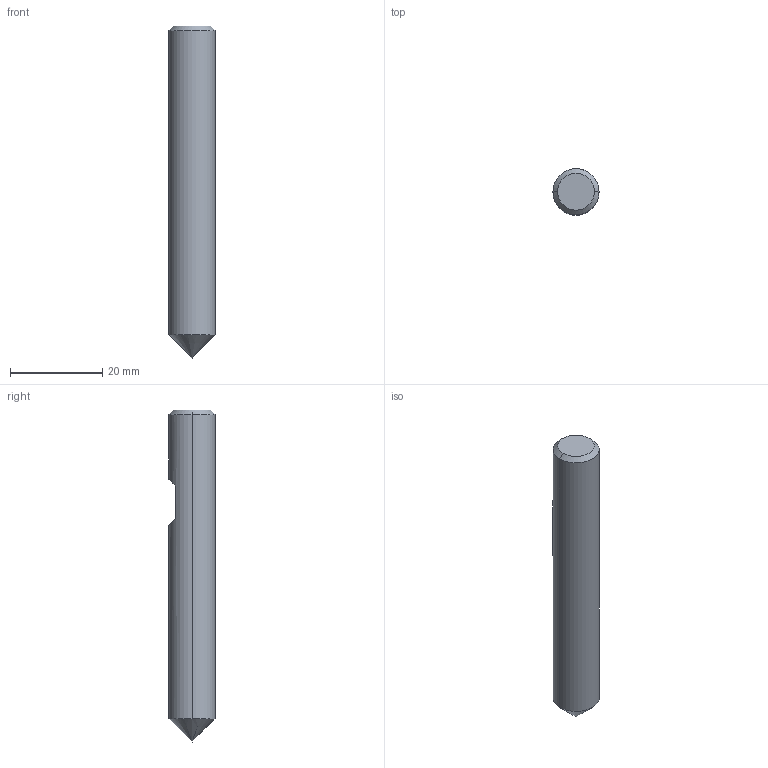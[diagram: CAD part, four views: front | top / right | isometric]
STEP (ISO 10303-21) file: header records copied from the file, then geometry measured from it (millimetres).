
FILE_DESCRIPTION (( 'STEP AP214' ), '1' );
FILE_NAME ('1.795.100.10_3D-model.step', '2022-02-15T18:15:42', ( '' ), ( '' ), 'SwSTEP 2.0', 'SolidWorks 2020', '' );
FILE_SCHEMA (( 'AUTOMOTIVE_DESIGN' ));
Length unit declared in the file: millimetre
Products named in the file (3): 1.795.100.10_3D-model; NOCUT-3D^Baugr5; CUT-3D^Baugr5
Assembly tree (2 placements, depth 2):
  1.795.100.10_3D-model
    CUT-3D^Baugr5
    NOCUT-3D^Baugr5
Bounding box: 10 x 10 x 72 mm (x, y, z)
Volume: 5317.7 mm3; surface area: 2431.3 mm2
Topology: 2 solids, 2 shells, 12 faces, 22 edges, 13 vertices
Faces by surface type: plane 6, cone 4, cylinder 2
Entity records: 406 total; most frequent: DIRECTION 66, CARTESIAN_POINT 59, ORIENTED_EDGE 40, AXIS2_PLACEMENT_3D 28, EDGE_CURVE 20, VERTEX_POINT 13, EDGE_LOOP 13, ADVANCED_FACE 12
